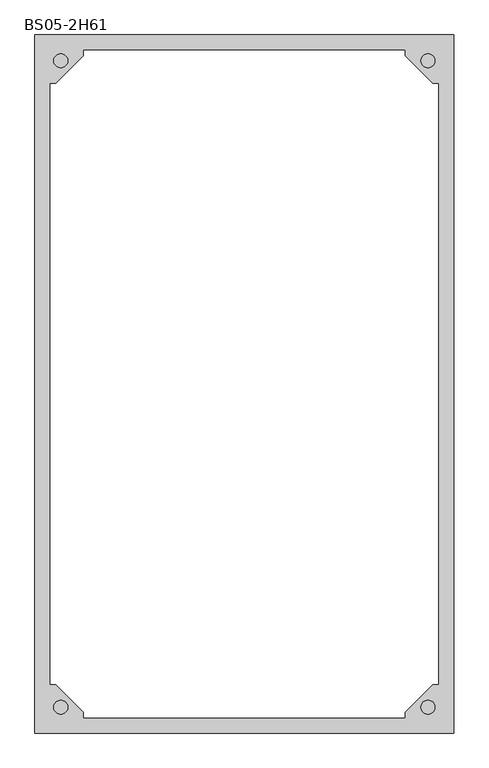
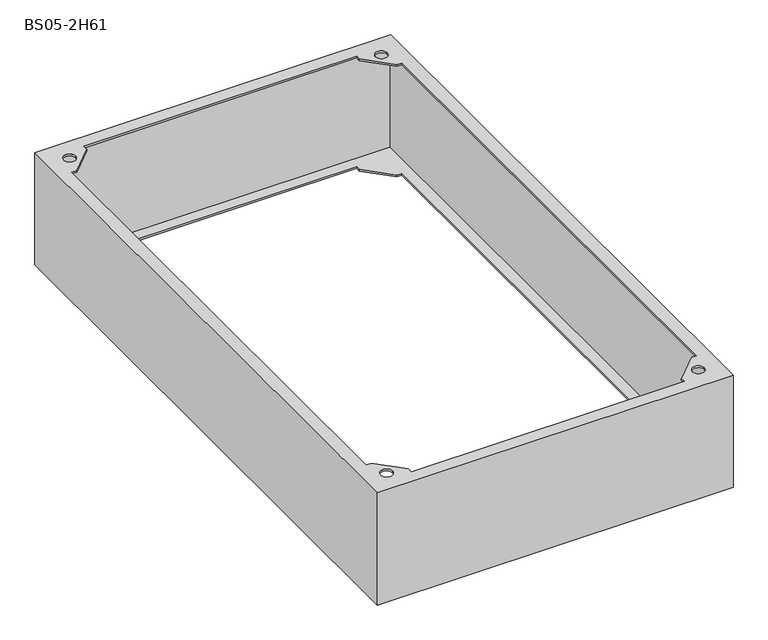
"""IFC4 building model written with IfcOpenShell, lengths in millimetres: proxy geometry, Цоколь для напольных шкафов : BS05-2H61."""

from ifc_helpers import new_model, si_unit, frame, origin, place, context, project, spatial, polyline, circle_curve, source, transform, mapped, element, save
from ifc_brep_helpers import plane_surface, revolved_surface, advanced_brep


def bs05_2h61_8f00bbb0(model_context):
    return source(origin(), model_context, "Body", "AdvancedBrep", [
        advanced_brep(
        [(300.0, -500.0, 200.0), (300.0, -500.0, 197.0), (300.0, -500.0, 3.0), (300.0, -500.0, 0.0), (300.0, 500.0, 0.0), (300.0, 500.0, 3.0), (300.0, 500.0, 197.0), (300.0, 500.0, 200.0), (278.0, 430.0, 0.0), (278.0, -430.0, 0.0), (278.0, -430.0, 3.0), (278.0, 430.0, 3.0), (297.0, 497.0, 197.0), (297.0, 497.0, 3.0), (297.0, -497.0, 3.0), (297.0, -497.0, 197.0), (278.0, 430.0, 197.0), (278.0, -430.0, 197.0), (278.0, -430.0, 200.0), (278.0, 430.0, 200.0), (-300.0, -500.0, 200.0), (-300.0, -500.0, 197.0), (-300.0, -500.0, 3.0), (-300.0, -500.0, 0.0), (230.0, -478.0, 0.0), (-230.0, -478.0, 0.0), (-230.0, -478.0, 3.0), (230.0, -478.0, 3.0), (-297.0, -497.0, 3.0), (-297.0, -497.0, 197.0), (230.0, -478.0, 197.0), (-230.0, -478.0, 197.0), (-230.0, -478.0, 200.0), (230.0, -478.0, 200.0), (-300.0, 500.0, 200.0), (-300.0, 500.0, 197.0), (-300.0, 500.0, 3.0), (-300.0, 500.0, 0.0), (-278.0, -430.0, 0.0), (-278.0, 430.0, 0.0), (-278.0, 430.0, 3.0), (-278.0, -430.0, 3.0), (-297.0, 497.0, 3.0), (-297.0, 497.0, 197.0), (-278.0, -430.0, 197.0), (-278.0, 430.0, 197.0), (-278.0, 430.0, 200.0), (-278.0, -430.0, 200.0), (-230.0, -470.0, 200.0), (-270.0, -430.0, 200.0), (-270.0, 430.0, 200.0), (-230.0, 470.0, 200.0), (-230.0, 478.0, 200.0), (230.0, 478.0, 200.0), (230.0, 470.0, 200.0), (270.0, 430.0, 200.0), (270.0, -430.0, 200.0), (230.0, -470.0, 200.0), (-252.9289322, -462.9289322, 200.0), (-272.9289322, -462.9289322, 200.0), (272.9289322, -462.9289322, 200.0), (252.9289322, -462.9289322, 200.0), (-252.9289322, 462.9289322, 200.0), (-272.9289322, 462.9289322, 200.0), (272.9289322, 462.9289322, 200.0), (252.9289322, 462.9289322, 200.0), (270.0, 430.0, 0.0), (230.0, 470.0, 0.0), (230.0, 478.0, 0.0), (-230.0, 478.0, 0.0), (-230.0, 470.0, 0.0), (-270.0, 430.0, 0.0), (-270.0, -430.0, 0.0), (-230.0, -470.0, 0.0), (230.0, -470.0, 0.0), (270.0, -430.0, 0.0), (230.0, 478.0, 3.0), (-230.0, 478.0, 3.0), (270.0, -430.0, 3.0), (230.0, -470.0, 3.0), (-230.0, -470.0, 3.0), (-270.0, -430.0, 3.0), (-270.0, 430.0, 3.0), (-230.0, 470.0, 3.0), (230.0, 470.0, 3.0), (270.0, 430.0, 3.0), (-270.0, -430.0, 197.0), (-230.0, -470.0, 197.0), (230.0, -470.0, 197.0), (270.0, -430.0, 197.0), (270.0, 430.0, 197.0), (230.0, 470.0, 197.0), (230.0, 478.0, 197.0), (-230.0, 478.0, 197.0), (-230.0, 470.0, 197.0), (-270.0, 430.0, 197.0), (-252.9289322, -462.9289322, 197.0), (-272.9289322, -462.9289322, 197.0), (272.9289322, -462.9289322, 197.0), (252.9289322, -462.9289322, 197.0), (-252.9289322, 462.9289322, 197.0), (-272.9289322, 462.9289322, 197.0), (272.9289322, 462.9289322, 197.0), (252.9289322, 462.9289322, 197.0)],
        [
            (0, 1),
            (1, 2),
            (2, 3),
            (3, 4),
            (4, 5),
            (5, 6),
            (6, 7),
            (7, 0),
            (8, 9),
            (9, 10),
            (10, 11),
            (11, 8),
            (12, 13),
            (13, 14),
            (14, 15),
            (15, 12),
            (16, 17),
            (17, 18),
            (18, 19),
            (19, 16),
            (0, 20),
            (20, 21),
            (21, 22),
            (22, 23),
            (23, 3),
            (24, 25),
            (25, 26),
            (26, 27),
            (27, 24),
            (14, 28),
            (28, 29),
            (29, 15),
            (30, 31),
            (31, 32),
            (32, 33),
            (33, 30),
            (20, 34),
            (34, 35),
            (35, 36),
            (36, 37),
            (37, 23),
            (38, 39),
            (39, 40),
            (40, 41),
            (41, 38),
            (28, 42),
            (42, 43),
            (43, 29),
            (44, 45),
            (45, 46),
            (46, 47),
            (47, 44),
            (7, 34),
            (48, 49),
            (49, 47),
            (46, 50),
            (50, 51),
            (51, 52),
            (52, 53),
            (53, 54),
            (54, 55),
            (55, 19),
            (18, 56),
            (56, 57),
            (57, 33),
            (32, 48),
            (58, 59, circle_curve(frame((-262.9289322, -462.9289322, 200.0), z_axis=(0.0, 0.0, -1.0), x_axis=(-1.0, 0.0, 0.0)), 10.0)),
            (59, 58, circle_curve(frame((-262.9289322, -462.9289322, 200.0), z_axis=(0.0, 0.0, -1.0), x_axis=(-1.0, 0.0, 0.0)), 10.0)),
            (60, 61, circle_curve(frame((262.9289322, -462.9289322, 200.0), z_axis=(0.0, 0.0, -1.0), x_axis=(-1.0, 0.0, 0.0)), 10.0)),
            (61, 60, circle_curve(frame((262.9289322, -462.9289322, 200.0), z_axis=(0.0, 0.0, -1.0), x_axis=(-1.0, 0.0, 0.0)), 10.0)),
            (62, 63, circle_curve(frame((-262.9289322, 462.9289322, 200.0), z_axis=(0.0, 0.0, -1.0), x_axis=(-1.0, 0.0, 0.0)), 10.0)),
            (63, 62, circle_curve(frame((-262.9289322, 462.9289322, 200.0), z_axis=(0.0, 0.0, -1.0), x_axis=(-1.0, 0.0, 0.0)), 10.0)),
            (64, 65, circle_curve(frame((262.9289322, 462.9289322, 200.0), z_axis=(0.0, 0.0, -1.0), x_axis=(-1.0, 0.0, 0.0)), 10.0)),
            (65, 64, circle_curve(frame((262.9289322, 462.9289322, 200.0), z_axis=(0.0, 0.0, -1.0), x_axis=(-1.0, 0.0, 0.0)), 10.0)),
            (4, 37),
            (8, 66),
            (66, 67),
            (67, 68),
            (68, 69),
            (69, 70),
            (70, 71),
            (71, 39),
            (38, 72),
            (72, 73),
            (73, 25),
            (24, 74),
            (74, 75),
            (75, 9),
            (68, 76),
            (76, 77),
            (77, 69),
            (13, 42),
            (10, 78),
            (78, 79),
            (79, 27),
            (26, 80),
            (80, 81),
            (81, 41),
            (40, 82),
            (82, 83),
            (83, 77),
            (76, 84),
            (84, 85),
            (85, 11),
            (12, 43),
            (86, 87),
            (87, 31),
            (30, 88),
            (88, 89),
            (89, 17),
            (16, 90),
            (90, 91),
            (91, 92),
            (92, 93),
            (93, 94),
            (94, 95),
            (95, 45),
            (44, 86),
            (96, 97, circle_curve(frame((-262.9289322, -462.9289322, 197.0), z_axis=(0.0, 0.0, 1.0), x_axis=(-1.0, 0.0, 0.0)), 10.0)),
            (97, 96, circle_curve(frame((-262.9289322, -462.9289322, 197.0), z_axis=(0.0, 0.0, 1.0), x_axis=(-1.0, 0.0, 0.0)), 10.0)),
            (98, 99, circle_curve(frame((262.9289322, -462.9289322, 197.0), z_axis=(0.0, 0.0, 1.0), x_axis=(-1.0, 0.0, 0.0)), 10.0)),
            (99, 98, circle_curve(frame((262.9289322, -462.9289322, 197.0), z_axis=(0.0, 0.0, 1.0), x_axis=(-1.0, 0.0, 0.0)), 10.0)),
            (100, 101, circle_curve(frame((-262.9289322, 462.9289322, 197.0), z_axis=(0.0, 0.0, 1.0), x_axis=(-1.0, 0.0, 0.0)), 10.0)),
            (101, 100, circle_curve(frame((-262.9289322, 462.9289322, 197.0), z_axis=(0.0, 0.0, 1.0), x_axis=(-1.0, 0.0, 0.0)), 10.0)),
            (102, 103, circle_curve(frame((262.9289322, 462.9289322, 197.0), z_axis=(0.0, 0.0, 1.0), x_axis=(-1.0, 0.0, 0.0)), 10.0)),
            (103, 102, circle_curve(frame((262.9289322, 462.9289322, 197.0), z_axis=(0.0, 0.0, 1.0), x_axis=(-1.0, 0.0, 0.0)), 10.0)),
            (52, 93),
            (92, 53),
            (87, 48),
            (86, 49),
            (89, 56),
            (88, 57),
            (95, 50),
            (94, 51),
            (91, 54),
            (90, 55),
            (58, 96),
            (97, 59),
            (60, 98),
            (99, 61),
            (62, 100),
            (101, 63),
            (64, 102),
            (103, 65),
            (73, 80),
            (72, 81),
            (75, 78),
            (74, 79),
            (71, 82),
            (70, 83),
            (67, 84),
            (66, 85),
        ],
        [
            plane_surface(frame((300.0, 500.0, 200.0), z_axis=(1.0, 0.0, 0.0), x_axis=(0.0, -1.0, 0.0))),
            plane_surface(frame((278.0, 478.0, 0.0), z_axis=(-1.0, 0.0, 0.0), x_axis=(0.0, -1.0, 0.0))),
            plane_surface(frame((297.0, 497.0, 3.0), z_axis=(-1.0, 0.0, 0.0), x_axis=(0.0, -1.0, 0.0))),
            plane_surface(frame((278.0, 478.0, 197.0), z_axis=(-1.0, 0.0, 0.0), x_axis=(0.0, -1.0, 0.0))),
            plane_surface(frame((300.0, -500.0, 200.0), z_axis=(0.0, -1.0, 0.0), x_axis=(-1.0, 0.0, 0.0))),
            plane_surface(frame((278.0, -478.0, 0.0), z_axis=(0.0, 1.0, 0.0), x_axis=(-1.0, 0.0, 0.0))),
            plane_surface(frame((297.0, -497.0, 3.0), z_axis=(0.0, 1.0, 0.0), x_axis=(-1.0, 0.0, 0.0))),
            plane_surface(frame((278.0, -478.0, 197.0), z_axis=(0.0, 1.0, 0.0), x_axis=(-1.0, 0.0, 0.0))),
            plane_surface(frame((-300.0, -500.0, 200.0), z_axis=(-1.0, 0.0, 0.0), x_axis=(0.0, 1.0, 0.0))),
            plane_surface(frame((-278.0, -478.0, 0.0), z_axis=(1.0, 0.0, 0.0), x_axis=(0.0, 1.0, 0.0))),
            plane_surface(frame((-297.0, -497.0, 3.0), z_axis=(1.0, 0.0, 0.0), x_axis=(0.0, 1.0, 0.0))),
            plane_surface(frame((-278.0, -478.0, 197.0), z_axis=(1.0, 0.0, 0.0), x_axis=(0.0, 1.0, 0.0))),
            plane_surface(frame((-278.0, 478.0, 200.0), z_axis=(0.0, 0.0, 1.0), x_axis=(1.0, 0.0, 0.0))),
            plane_surface(frame((-300.0, 500.0, 200.0), z_axis=(0.0, 1.0, 0.0), x_axis=(1.0, 0.0, 0.0))),
            plane_surface(frame((-300.0, 500.0, 0.0), z_axis=(0.0, 0.0, -1.0), x_axis=(1.0, 0.0, 0.0))),
            plane_surface(frame((-278.0, 478.0, 0.0), z_axis=(0.0, -1.0, 0.0), x_axis=(1.0, 0.0, 0.0))),
            plane_surface(frame((-278.0, 478.0, 3.0), z_axis=(0.0, 0.0, 1.0), x_axis=(1.0, 0.0, 0.0))),
            plane_surface(frame((-297.0, 497.0, 3.0), z_axis=(0.0, -1.0, 0.0), x_axis=(1.0, 0.0, 0.0))),
            plane_surface(frame((-297.0, 497.0, 197.0), z_axis=(0.0, 0.0, -1.0), x_axis=(1.0, 0.0, 0.0))),
            plane_surface(frame((-278.0, 478.0, 197.0), z_axis=(0.0, -1.0, 0.0), x_axis=(1.0, 0.0, 0.0))),
            plane_surface(frame((-230.0, -500.0, 200.0), z_axis=(1.0, 0.0, 0.0), x_axis=(0.0, 0.0, -1.0))),
            plane_surface(frame((-230.0, -470.0, 200.0), z_axis=(0.7071067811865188, 0.7071067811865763, 0.0), x_axis=(0.0, 0.0, -1.0))),
            plane_surface(frame((-270.0, -430.0, 200.0), z_axis=(0.0, 1.0, 0.0), x_axis=(0.0, 0.0, -1.0))),
            plane_surface(frame((300.0, -430.0, 200.0), z_axis=(0.0, 1.0, 0.0), x_axis=(0.0, 0.0, -1.0))),
            plane_surface(frame((270.0, -430.0, 200.0), z_axis=(-0.7071067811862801, 0.7071067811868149, 0.0), x_axis=(0.0, 0.0, -1.0))),
            plane_surface(frame((230.0, -470.0, 200.0), z_axis=(-1.0, 0.0, 0.0), x_axis=(0.0, 0.0, -1.0))),
            plane_surface(frame((-300.0, 430.0, 200.0), z_axis=(0.0, -1.0, 0.0), x_axis=(0.0, 0.0, -1.0))),
            plane_surface(frame((-270.0, 430.0, 200.0), z_axis=(0.7071067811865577, -0.7071067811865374, 0.0), x_axis=(0.0, 0.0, -1.0))),
            plane_surface(frame((-230.0, 470.0, 200.0), z_axis=(1.0, 0.0, 0.0), x_axis=(0.0, 0.0, -1.0))),
            plane_surface(frame((230.0, 500.0, 200.0), z_axis=(-1.0, 0.0, 0.0), x_axis=(0.0, 0.0, -1.0))),
            plane_surface(frame((230.0, 470.0, 200.0), z_axis=(-0.7071067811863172, -0.7071067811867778, 0.0), x_axis=(0.0, 0.0, -1.0))),
            plane_surface(frame((270.0, 430.0, 200.0), z_axis=(0.0, -1.0, 0.0), x_axis=(0.0, 0.0, -1.0))),
            revolved_surface(polyline([(-272.9289322, -462.9289322, 197.0), (-272.9289322, -462.9289322, 200.0)]), (-262.9289322, -462.9289322, 200.0), (0.0, 0.0, -1.0)),
            revolved_surface(polyline([(252.92893220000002, -462.9289322, 197.0), (252.92893220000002, -462.9289322, 200.0)]), (262.9289322, -462.9289322, 200.0), (0.0, 0.0, -1.0)),
            revolved_surface(polyline([(-272.9289322, 462.9289322, 197.0), (-272.9289322, 462.9289322, 200.0)]), (-262.9289322, 462.9289322, 200.0), (0.0, 0.0, -1.0)),
            revolved_surface(polyline([(252.92893220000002, 462.9289322, 197.0), (252.92893220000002, 462.9289322, 200.0)]), (262.9289322, 462.9289322, 200.0), (0.0, 0.0, -1.0)),
            plane_surface(frame((-230.0, -500.0, 3.0), z_axis=(1.0, 0.0, 0.0), x_axis=(0.0, 0.0, -1.0))),
            plane_surface(frame((-230.0, -470.0, 3.0), z_axis=(0.7071067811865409, 0.7071067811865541, 0.0), x_axis=(0.0, 0.0, -1.0))),
            plane_surface(frame((-270.0, -430.0, 3.0), z_axis=(0.0, 1.0, 0.0), x_axis=(0.0, 0.0, -1.0))),
            plane_surface(frame((300.0, -430.0, 3.0), z_axis=(0.0, 1.0, 0.0), x_axis=(0.0, 0.0, -1.0))),
            plane_surface(frame((270.0, -430.0, 3.0), z_axis=(-0.7071067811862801, 0.7071067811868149, 0.0), x_axis=(0.0, 0.0, -1.0))),
            plane_surface(frame((230.0, -470.0, 3.0), z_axis=(-1.0, 0.0, 0.0), x_axis=(0.0, 0.0, -1.0))),
            plane_surface(frame((-300.0, 430.0, 3.0), z_axis=(0.0, -1.0, 0.0), x_axis=(0.0, 0.0, -1.0))),
            plane_surface(frame((-270.0, 430.0, 3.0), z_axis=(0.7071067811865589, -0.7071067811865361, 0.0), x_axis=(0.0, 0.0, -1.0))),
            plane_surface(frame((-230.0, 470.0, 3.0), z_axis=(1.0, 0.0, 0.0), x_axis=(0.0, 0.0, -1.0))),
            plane_surface(frame((230.0, 500.0, 3.0), z_axis=(-1.0, 0.0, 0.0), x_axis=(0.0, 0.0, -1.0))),
            plane_surface(frame((230.0, 470.0, 3.0), z_axis=(-0.7071067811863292, -0.7071067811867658, 0.0), x_axis=(0.0, 0.0, -1.0))),
            plane_surface(frame((270.0, 430.0, 3.0), z_axis=(0.0, -1.0, 0.0), x_axis=(0.0, 0.0, -1.0))),
        ],
        [
            (0, [[1, 2, 3, 4, 5, 6, 7, 8]]),
            (1, [[9, 10, 11, 12]]),
            (2, [[13, 14, 15, 16]]),
            (3, [[17, 18, 19, 20]]),
            (4, [[-1, 21, 22, 23, 24, 25, -3, -2]]),
            (5, [[26, 27, 28, 29]]),
            (6, [[-15, 30, 31, 32]]),
            (7, [[33, 34, 35, 36]]),
            (8, [[-22, 37, 38, 39, 40, 41, -24, -23]]),
            (9, [[42, 43, 44, 45]]),
            (10, [[-31, 46, 47, 48]]),
            (11, [[49, 50, 51, 52]]),
            (12, [[-8, 53, -37, -21], [54, 55, -51, 56, 57, 58, 59, 60, 61, 62, -19, 63, 64, 65, -35, 66], [67, 68], [69, 70], [71, 72], [73, 74]]),
            (13, [[-38, -53, -7, -6, -5, 75, -40, -39]]),
            (14, [[-4, -25, -41, -75], [-9, 76, 77, 78, 79, 80, 81, 82, -42, 83, 84, 85, -26, 86, 87, 88]]),
            (15, [[-79, 89, 90, 91]]),
            (16, [[-14, 92, -46, -30], [-11, 93, 94, 95, -28, 96, 97, 98, -44, 99, 100, 101, -90, 102, 103, 104]]),
            (17, [[-92, -13, 105, -47]]),
            (18, [[-32, -48, -105, -16], [106, 107, -33, 108, 109, 110, -17, 111, 112, 113, 114, 115, 116, 117, -49, 118], [119, 120], [121, 122], [123, 124], [125, 126]]),
            (19, [[-59, 127, -114, 128]]),
            (20, [[129, -66, -34, -107]]),
            (21, [[-54, -129, -106, 130]]),
            (22, [[-130, -118, -52, -55]]),
            (23, [[131, -63, -18, -110]]),
            (24, [[-64, -131, -109, 132]]),
            (25, [[-132, -108, -36, -65]]),
            (26, [[133, -56, -50, -117]]),
            (27, [[-57, -133, -116, 134]]),
            (28, [[-134, -115, -127, -58]]),
            (29, [[135, -60, -128, -113]]),
            (30, [[-61, -135, -112, 136]]),
            (31, [[-136, -111, -20, -62]]),
            (32, [[-67, 137, -120, 138]]),
            (32, [[-68, -138, -119, -137]]),
            (33, [[-69, 139, -122, 140]]),
            (33, [[-70, -140, -121, -139]]),
            (34, [[-71, 141, -124, 142]]),
            (34, [[-72, -142, -123, -141]]),
            (35, [[-73, 143, -126, 144]]),
            (35, [[-74, -144, -125, -143]]),
            (36, [[145, -96, -27, -85]]),
            (37, [[-97, -145, -84, 146]]),
            (38, [[-146, -83, -45, -98]]),
            (39, [[147, -93, -10, -88]]),
            (40, [[-94, -147, -87, 148]]),
            (41, [[-148, -86, -29, -95]]),
            (42, [[149, -99, -43, -82]]),
            (43, [[-100, -149, -81, 150]]),
            (44, [[-150, -80, -91, -101]]),
            (45, [[151, -102, -89, -78]]),
            (46, [[-103, -151, -77, 152]]),
            (47, [[-152, -76, -12, -104]]),
        ],
    ),
    ])


if __name__ == "__main__":
    model = new_model("IFC4")
    model_context = context("Model", 3, world=origin())
    ifc_project = project(units=[si_unit("LENGTHUNIT", "METRE", prefix="MILLI")], contexts=[model_context])
    site = spatial("IfcSite", under=ifc_project)
    building = spatial("IfcBuilding", under=site)
    placement = place(None, origin())
    bs05_2h61_shape = bs05_2h61_8f00bbb0(model_context)
    element("IfcBuildingElementProxy", 1, Name="Цоколь для напольных шкафов : BS05-2H61", ObjectType="Цоколь для напольных шкафов : BS05-2H61", at=placement, inside=building, context=model_context, shape_type="MappedRepresentation", body=[
        mapped(bs05_2h61_shape, transform((0.0, 0.0, 0.0), x_axis=(1.0, 0.0, 0.0), y_axis=(0.0, 1.0, 0.0), z_axis=(0.0, 0.0, 1.0))),
    ])
    save(model, "model.ifc")
